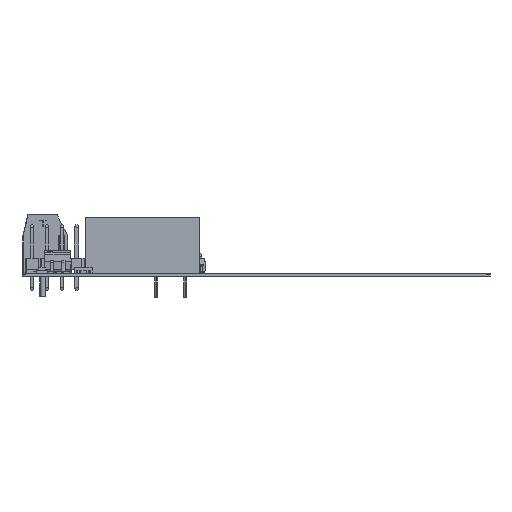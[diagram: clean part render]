
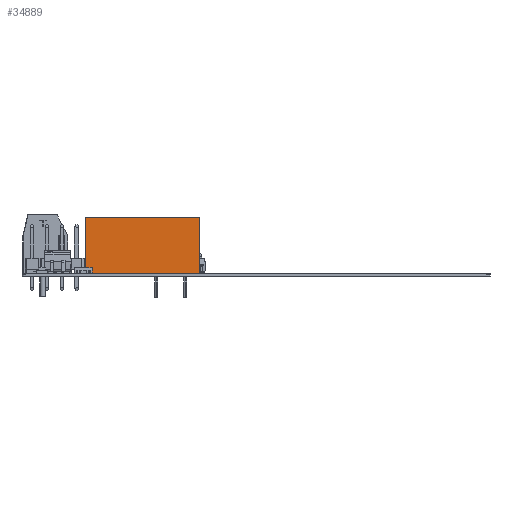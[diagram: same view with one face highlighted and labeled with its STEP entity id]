
A CAD part, left-side view. The second image highlights one B-rep face of the part: STEP entity #34889.
In plain terms, the highlighted planar face has unit normal (-1, 0, 0).
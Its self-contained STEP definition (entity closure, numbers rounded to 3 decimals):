
#34784 = PLANE('',#34785);
#34785 = AXIS2_PLACEMENT_3D('',#34786,#34787,#34788);
#34786 = CARTESIAN_POINT('',(2.83,-9.633,0.));
#34787 = DIRECTION('',(0.,-1.,0.));
#34788 = DIRECTION('',(-1.,0.,0.));
#34809 = VERTEX_POINT('',#34810);
#34810 = CARTESIAN_POINT('',(-2.83,-9.633,9.499));
#34824 = PLANE('',#34825);
#34825 = AXIS2_PLACEMENT_3D('',#34826,#34827,#34828);
#34826 = CARTESIAN_POINT('',(2.83,-9.633,9.499));
#34827 = DIRECTION('',(0.,0.,1.));
#34828 = DIRECTION('',(1.,0.,0.));
#34836 = EDGE_CURVE('',#34837,#34809,#34839,.T.);
#34837 = VERTEX_POINT('',#34838);
#34838 = CARTESIAN_POINT('',(-2.83,-9.633,0.));
#34839 = SURFACE_CURVE('',#34840,(#34844,#34851),.PCURVE_S1.);
#34840 = LINE('',#34841,#34842);
#34841 = CARTESIAN_POINT('',(-2.83,-9.633,0.));
#34842 = VECTOR('',#34843,1.);
#34843 = DIRECTION('',(0.,0.,1.));
#34844 = PCURVE('',#34784,#34845);
#34845 = DEFINITIONAL_REPRESENTATION('',(#34846),#34850);
#34846 = LINE('',#34847,#34848);
#34847 = CARTESIAN_POINT('',(5.66,0.));
#34848 = VECTOR('',#34849,1.);
#34849 = DIRECTION('',(0.,-1.));
#34850 = ( GEOMETRIC_REPRESENTATION_CONTEXT(2) 
PARAMETRIC_REPRESENTATION_CONTEXT() REPRESENTATION_CONTEXT('2D SPACE',''
  ) );
#34851 = PCURVE('',#34852,#34857);
#34852 = PLANE('',#34853);
#34853 = AXIS2_PLACEMENT_3D('',#34854,#34855,#34856);
#34854 = CARTESIAN_POINT('',(-2.83,-9.633,0.));
#34855 = DIRECTION('',(-1.,0.,0.));
#34856 = DIRECTION('',(0.,1.,0.));
#34857 = DEFINITIONAL_REPRESENTATION('',(#34858),#34862);
#34858 = LINE('',#34859,#34860);
#34859 = CARTESIAN_POINT('',(0.,0.));
#34860 = VECTOR('',#34861,1.);
#34861 = DIRECTION('',(0.,-1.));
#34862 = ( GEOMETRIC_REPRESENTATION_CONTEXT(2) 
PARAMETRIC_REPRESENTATION_CONTEXT() REPRESENTATION_CONTEXT('2D SPACE',''
  ) );
#34878 = PLANE('',#34879);
#34879 = AXIS2_PLACEMENT_3D('',#34880,#34881,#34882);
#34880 = CARTESIAN_POINT('',(2.83,-9.633,0.));
#34881 = DIRECTION('',(0.,0.,1.));
#34882 = DIRECTION('',(1.,0.,0.));
#34889 = ADVANCED_FACE('',(#34890),#34852,.T.);
#34890 = FACE_BOUND('',#34891,.T.);
#34891 = EDGE_LOOP('',(#34892,#34893,#34916,#34944));
#34892 = ORIENTED_EDGE('',*,*,#34836,.T.);
#34893 = ORIENTED_EDGE('',*,*,#34894,.T.);
#34894 = EDGE_CURVE('',#34809,#34895,#34897,.T.);
#34895 = VERTEX_POINT('',#34896);
#34896 = CARTESIAN_POINT('',(-2.83,9.634,9.499));
#34897 = SURFACE_CURVE('',#34898,(#34902,#34909),.PCURVE_S1.);
#34898 = LINE('',#34899,#34900);
#34899 = CARTESIAN_POINT('',(-2.83,-9.633,9.499));
#34900 = VECTOR('',#34901,1.);
#34901 = DIRECTION('',(0.,1.,0.));
#34902 = PCURVE('',#34852,#34903);
#34903 = DEFINITIONAL_REPRESENTATION('',(#34904),#34908);
#34904 = LINE('',#34905,#34906);
#34905 = CARTESIAN_POINT('',(0.,-9.499));
#34906 = VECTOR('',#34907,1.);
#34907 = DIRECTION('',(1.,0.));
#34908 = ( GEOMETRIC_REPRESENTATION_CONTEXT(2) 
PARAMETRIC_REPRESENTATION_CONTEXT() REPRESENTATION_CONTEXT('2D SPACE',''
  ) );
#34909 = PCURVE('',#34824,#34910);
#34910 = DEFINITIONAL_REPRESENTATION('',(#34911),#34915);
#34911 = LINE('',#34912,#34913);
#34912 = CARTESIAN_POINT('',(-5.66,0.));
#34913 = VECTOR('',#34914,1.);
#34914 = DIRECTION('',(0.,1.));
#34915 = ( GEOMETRIC_REPRESENTATION_CONTEXT(2) 
PARAMETRIC_REPRESENTATION_CONTEXT() REPRESENTATION_CONTEXT('2D SPACE',''
  ) );
#34916 = ORIENTED_EDGE('',*,*,#34917,.F.);
#34917 = EDGE_CURVE('',#34918,#34895,#34920,.T.);
#34918 = VERTEX_POINT('',#34919);
#34919 = CARTESIAN_POINT('',(-2.83,9.634,0.));
#34920 = SURFACE_CURVE('',#34921,(#34925,#34932),.PCURVE_S1.);
#34921 = LINE('',#34922,#34923);
#34922 = CARTESIAN_POINT('',(-2.83,9.634,0.));
#34923 = VECTOR('',#34924,1.);
#34924 = DIRECTION('',(0.,0.,1.));
#34925 = PCURVE('',#34852,#34926);
#34926 = DEFINITIONAL_REPRESENTATION('',(#34927),#34931);
#34927 = LINE('',#34928,#34929);
#34928 = CARTESIAN_POINT('',(19.267,0.));
#34929 = VECTOR('',#34930,1.);
#34930 = DIRECTION('',(0.,-1.));
#34931 = ( GEOMETRIC_REPRESENTATION_CONTEXT(2) 
PARAMETRIC_REPRESENTATION_CONTEXT() REPRESENTATION_CONTEXT('2D SPACE',''
  ) );
#34932 = PCURVE('',#34933,#34938);
#34933 = PLANE('',#34934);
#34934 = AXIS2_PLACEMENT_3D('',#34935,#34936,#34937);
#34935 = CARTESIAN_POINT('',(-2.83,9.634,0.));
#34936 = DIRECTION('',(0.,1.,0.));
#34937 = DIRECTION('',(1.,0.,0.));
#34938 = DEFINITIONAL_REPRESENTATION('',(#34939),#34943);
#34939 = LINE('',#34940,#34941);
#34940 = CARTESIAN_POINT('',(0.,0.));
#34941 = VECTOR('',#34942,1.);
#34942 = DIRECTION('',(0.,-1.));
#34943 = ( GEOMETRIC_REPRESENTATION_CONTEXT(2) 
PARAMETRIC_REPRESENTATION_CONTEXT() REPRESENTATION_CONTEXT('2D SPACE',''
  ) );
#34944 = ORIENTED_EDGE('',*,*,#34945,.F.);
#34945 = EDGE_CURVE('',#34837,#34918,#34946,.T.);
#34946 = SURFACE_CURVE('',#34947,(#34951,#34958),.PCURVE_S1.);
#34947 = LINE('',#34948,#34949);
#34948 = CARTESIAN_POINT('',(-2.83,-9.633,0.));
#34949 = VECTOR('',#34950,1.);
#34950 = DIRECTION('',(0.,1.,0.));
#34951 = PCURVE('',#34852,#34952);
#34952 = DEFINITIONAL_REPRESENTATION('',(#34953),#34957);
#34953 = LINE('',#34954,#34955);
#34954 = CARTESIAN_POINT('',(0.,0.));
#34955 = VECTOR('',#34956,1.);
#34956 = DIRECTION('',(1.,0.));
#34957 = ( GEOMETRIC_REPRESENTATION_CONTEXT(2) 
PARAMETRIC_REPRESENTATION_CONTEXT() REPRESENTATION_CONTEXT('2D SPACE',''
  ) );
#34958 = PCURVE('',#34878,#34959);
#34959 = DEFINITIONAL_REPRESENTATION('',(#34960),#34964);
#34960 = LINE('',#34961,#34962);
#34961 = CARTESIAN_POINT('',(-5.66,0.));
#34962 = VECTOR('',#34963,1.);
#34963 = DIRECTION('',(0.,1.));
#34964 = ( GEOMETRIC_REPRESENTATION_CONTEXT(2) 
PARAMETRIC_REPRESENTATION_CONTEXT() REPRESENTATION_CONTEXT('2D SPACE',''
  ) );
